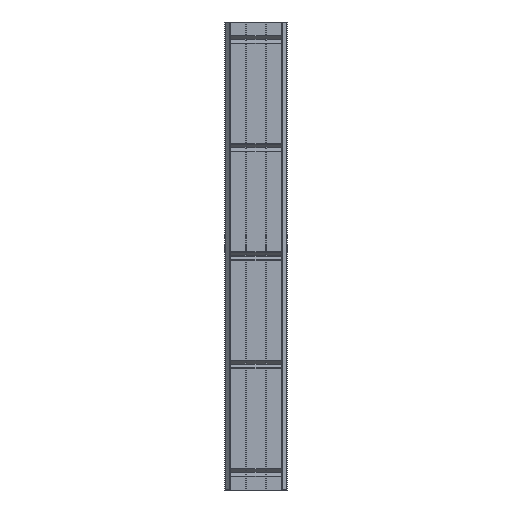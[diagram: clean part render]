
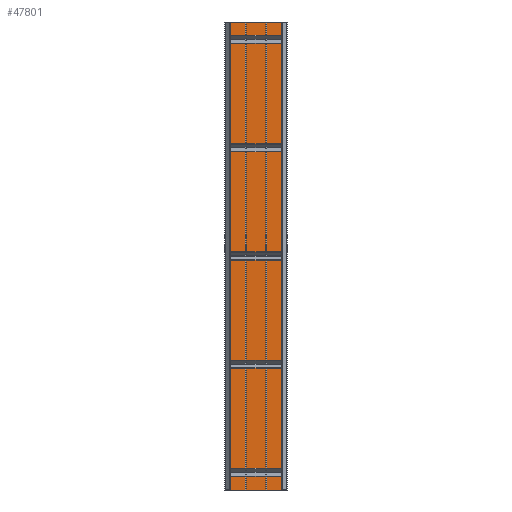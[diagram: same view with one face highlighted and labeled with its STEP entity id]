
A CAD part, front view. The second image highlights one B-rep face of the part: STEP entity #47801.
In plain terms, the highlighted planar face has unit normal (0, -1, 0).
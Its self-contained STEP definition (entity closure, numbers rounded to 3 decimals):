
#6340 = CARTESIAN_POINT ( 'NONE',  ( -190.5, -68.75, 20. ) ) ;
#6480 = DIRECTION ( 'NONE',  ( 0., 0., 1. ) ) ;
#8838 = LINE ( 'NONE', #21406, #44187 ) ;
#9335 = EDGE_CURVE ( 'NONE', #29803, #47346, #47259, .T. ) ;
#17125 = CARTESIAN_POINT ( 'NONE',  ( -190.5, -68.75, 20. ) ) ;
#17189 = LINE ( 'NONE', #42925, #18995 ) ;
#18995 = VECTOR ( 'NONE', #30282, 1000. ) ;
#21406 = CARTESIAN_POINT ( 'NONE',  ( -190.5, -68.75, 3010. ) ) ;
#23022 = DIRECTION ( 'NONE',  ( 0., 0., -1. ) ) ;
#23564 = PLANE ( 'NONE',  #50387 ) ;
#26170 = CARTESIAN_POINT ( 'NONE',  ( 190.5, -68.75, 20. ) ) ;
#26992 = CARTESIAN_POINT ( 'NONE',  ( -190.5, -68.75, 20. ) ) ;
#27473 = ORIENTED_EDGE ( 'NONE', *, *, #46616, .F. ) ;
#27494 = ORIENTED_EDGE ( 'NONE', *, *, #9335, .T. ) ;
#28524 = ORIENTED_EDGE ( 'NONE', *, *, #35728, .F. ) ;
#29803 = VERTEX_POINT ( 'NONE', #30304 ) ;
#29919 = VECTOR ( 'NONE', #50549, 1000. ) ;
#30282 = DIRECTION ( 'NONE',  ( 1., 0., 0. ) ) ;
#30304 = CARTESIAN_POINT ( 'NONE',  ( 190.5, -68.75, 20. ) ) ;
#32077 = VERTEX_POINT ( 'NONE', #17125 ) ;
#33551 = CARTESIAN_POINT ( 'NONE',  ( 190.5, -68.75, 3010. ) ) ;
#35583 = FACE_OUTER_BOUND ( 'NONE', #49339, .T. ) ;
#35728 = EDGE_CURVE ( 'NONE', #32077, #51871, #38757, .T. ) ;
#36335 = EDGE_CURVE ( 'NONE', #32077, #29803, #17189, .T. ) ;
#38075 = DIRECTION ( 'NONE',  ( 1., 0., 0. ) ) ;
#38757 = LINE ( 'NONE', #26992, #52185 ) ;
#40247 = DIRECTION ( 'NONE',  ( 0., -1., 0. ) ) ;
#41391 = ORIENTED_EDGE ( 'NONE', *, *, #36335, .T. ) ;
#42925 = CARTESIAN_POINT ( 'NONE',  ( -190.5, -68.75, 20. ) ) ;
#44187 = VECTOR ( 'NONE', #38075, 1000. ) ;
#46616 = EDGE_CURVE ( 'NONE', #51871, #47346, #8838, .T. ) ;
#47259 = LINE ( 'NONE', #26170, #29919 ) ;
#47346 = VERTEX_POINT ( 'NONE', #33551 ) ;
#47801 = ADVANCED_FACE ( 'NONE', ( #35583 ), #23564, .T. ) ;
#49339 = EDGE_LOOP ( 'NONE', ( #27494, #27473, #28524, #41391 ) ) ;
#50387 = AXIS2_PLACEMENT_3D ( 'NONE', #6340, #40247, #23022 ) ;
#50549 = DIRECTION ( 'NONE',  ( 0., 0., 1. ) ) ;
#50789 = CARTESIAN_POINT ( 'NONE',  ( -190.5, -68.75, 3010. ) ) ;
#51871 = VERTEX_POINT ( 'NONE', #50789 ) ;
#52185 = VECTOR ( 'NONE', #6480, 1000. ) ;
